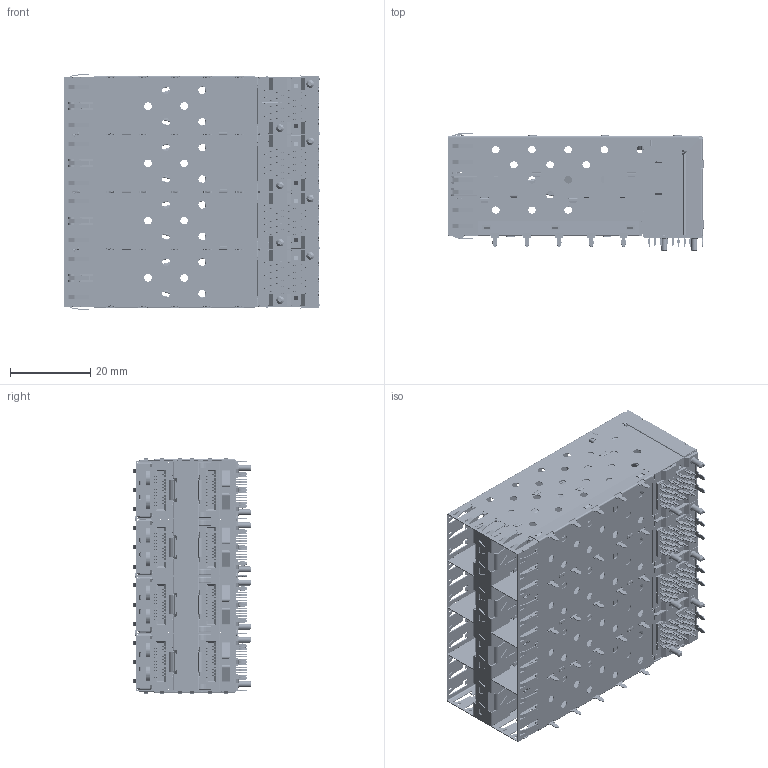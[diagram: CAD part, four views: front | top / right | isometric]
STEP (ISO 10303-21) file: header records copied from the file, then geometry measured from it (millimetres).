
FILE_DESCRIPTION (( 'STEP AP214' ), '1' );
FILE_NAME ('SAD0-0000210100-0000-X.STEP', '2020-11-06T05:44:23', ( '' ), ( '' ), 'SwSTEP 2.0', 'SolidWorks 2012', '' );
FILE_SCHEMA (( 'AUTOMOTIVE_DESIGN' ));
Products named in the file (26): SSA0-M210-P_C TYPE; SSD0-P130_for 4lightpipe-LED高度0.6 max(亮面+套筒; SSD0-P150; SSA0-M220_SSA0-M22001XX 客戶3D-Type B-GND; SSA0-C110_SSA0-C11002XX 客戶3D-Type C-XIN; SSA0-M210_SSA0-M21000XX 客戶3D-Type A-XIN; SSA0-M130 Conn+Lightpipe Ass''y-1_客戶3D  DUDU; SSD0-P140_for 4Lightpipe-LED高度0.6 max(亮面+套筒); SSA0-M220-P_D TYPE; SSA0-C110_SSA0-C11001XX 客戶3D-Type B-GND; SBD0-S140_w\DUDU lightpipe-stamp; SSA0-M220_SSA0-M22000XX 客戶3D-Type A-GND; SBD0-S110-1_2.25-Legs22-SFP hole+panel spring ass''y; SSA0-M210-P; SAD0-0000210100-0000-X; SSA0-M210_SSA0-M21001XX 客戶3D-Type B-XIN; SBD0-S130-1_pressfit 1.05-2.25-Legs5-ass''y; SBA0-S130_組裝; SSA0-P110; SBD0-S120-1_SFP; SBD0-S140_w\DUDU lightpipe-right ass''y; SBD0-S140_w\DUDU lightpipe-left ass''y; SSA0-C110_SSA0-C11003XX 客戶3D-Type D-XIN; SBD0-M110-1_pressfit 1.05-2.25-legs5-DUDU 4lightpipe; SSA0-C110_SSA0-C11000XX 客戶3D-Type A-GND; SSA0-M220-P
Assembly tree (37 placements, depth 4):
  SAD0-0000210100-0000-X
    SBD0-S110-1_2.25-Legs22-SFP hole+panel spring ass''y
    SBD0-M110-1_pressfit 1.05-2.25-legs5-DUDU 4lightpipe
      SBD0-S130-1_pressfit 1.05-2.25-Legs5-ass''y  x3
      SBD0-S140_w\DUDU lightpipe-left ass''y
      SBD0-S140_w\DUDU lightpipe-stamp  x2
      SBD0-S140_w\DUDU lightpipe-right ass''y
    SBD0-S120-1_SFP
    SSA0-M130 Conn+Lightpipe Ass''y-1_客戶3D  DUDU  x4
      SSA0-P110
      SBA0-S130_組裝
      SSA0-M220_SSA0-M22000XX 客戶3D-Type A-GND
        SSA0-M220-P
        SSA0-C110_SSA0-C11000XX 客戶3D-Type A-GND
      SSA0-M210_SSA0-M21001XX 客戶3D-Type B-XIN
        SSA0-M210-P
        SSA0-C110_SSA0-C11003XX 客戶3D-Type D-XIN
      SSA0-M210_SSA0-M21000XX 客戶3D-Type A-XIN
        SSA0-M210-P_C TYPE
        SSA0-C110_SSA0-C11002XX 客戶3D-Type C-XIN
      SSA0-M220_SSA0-M22001XX 客戶3D-Type B-GND
        SSA0-M220-P_D TYPE
        SSA0-C110_SSA0-C11001XX 客戶3D-Type B-GND
      SSD0-P130_for 4lightpipe-LED高度0.6 max(亮面+套筒
      SSD0-P140_for 4Lightpipe-LED高度0.6 max(亮面+套筒)
      SSD0-P150
Bounding box: 63.5 x 29.5 x 58.75 mm (x, y, z)
Volume: 29040.4 mm3; surface area: 111734.2 mm2
Topology: 293 solids, 293 shells, 40493 faces, 111679 edges, 71654 vertices
Faces by surface type: plane 28152, cylinder 11199, bspline 694, torus 256, cone 192
Entity records: 339697 total; most frequent: CARTESIAN_POINT 69870, ORIENTED_EDGE 56934, DIRECTION 55763, EDGE_CURVE 28467, VECTOR 19693, LINE 19693, VERTEX_POINT 18238, AXIS2_PLACEMENT_3D 18035
